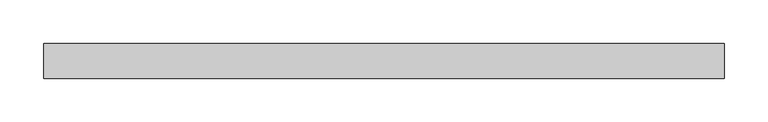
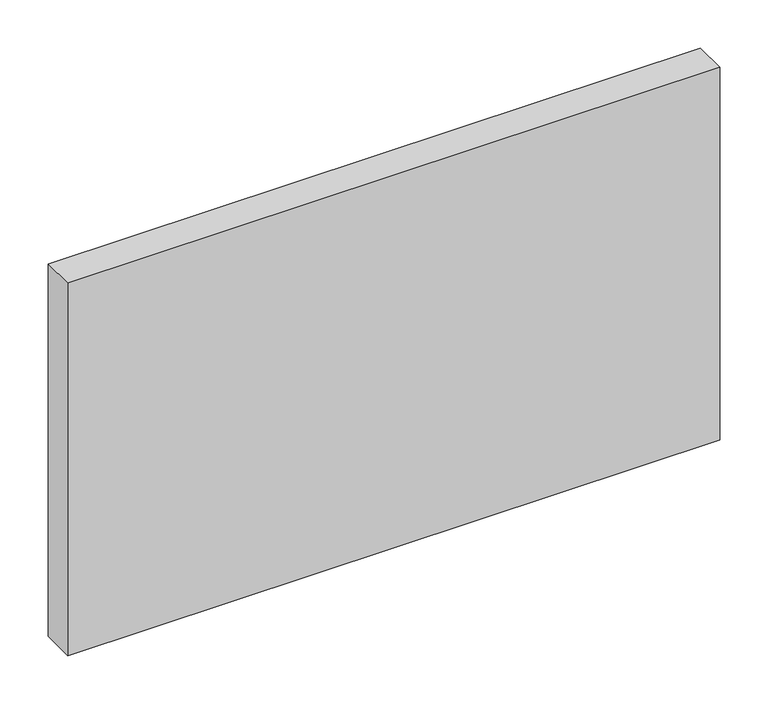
"""IFC4 building model written with IfcOpenShell, lengths in millimetres: plate geometry, Panneau système vide : Epaiss. 4cm."""

from ifc_helpers import new_model, si_unit, origin, origin_with_axes, place, context, project, spatial, polyline, outline, extrude, source, transform, mapped, element, save


def plate_f8923463(model_context):
    return source(origin(), model_context, "Body", "SweptSolid", [
        extrude(outline(polyline([(390.15, -20.0), (-390.15, -20.0), (-390.15, 20.0), (390.15, 20.0), (390.15, -20.0)])), origin_with_axes(), (0.0, 0.0, 1.0), 471.361482),
    ])


if __name__ == "__main__":
    model = new_model("IFC4")
    model_context = context("Model", 3, world=origin())
    ifc_project = project(units=[si_unit("LENGTHUNIT", "METRE", prefix="MILLI")], contexts=[model_context])
    site = spatial("IfcSite", under=ifc_project)
    building = spatial("IfcBuilding", under=site)
    placement = place(None, origin())
    plate_shape = plate_f8923463(model_context)
    element("IfcPlate", 1, ObjectType="Panneau système vide : Epaiss. 4cm", at=placement, inside=building, context=model_context, shape_type="MappedRepresentation", body=[
        mapped(plate_shape, transform((0.0, 0.0, 0.0), x_axis=(1.0, 0.0, 0.0), y_axis=(0.0, 1.0, 0.0), z_axis=(0.0, 0.0, 1.0))),
    ])
    save(model, "model.ifc")
